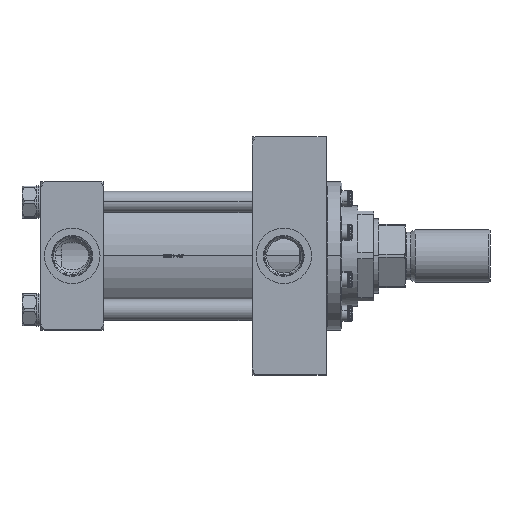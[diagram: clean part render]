
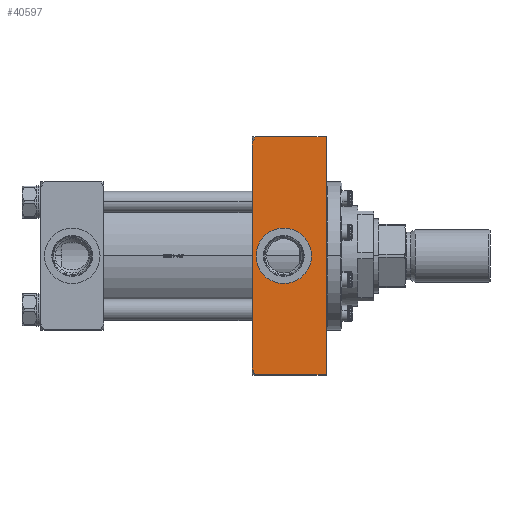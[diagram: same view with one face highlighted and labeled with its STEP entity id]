
A CAD part, top view. The second image highlights one B-rep face of the part: STEP entity #40597.
In plain terms, the highlighted planar face has unit normal (0, 0, 1).
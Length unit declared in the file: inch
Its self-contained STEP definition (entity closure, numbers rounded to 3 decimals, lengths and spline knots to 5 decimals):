
#213 = VECTOR ( 'NONE', #40701, 39.37008 ) ;
#823 = DIRECTION ( 'NONE',  ( 0., 0., -1. ) ) ;
#3746 = FACE_BOUND ( 'NONE', #79540, .T. ) ;
#4019 = VERTEX_POINT ( 'NONE', #34451 ) ;
#6539 = CARTESIAN_POINT ( 'NONE',  ( -3.59096, -2.73492, 1.75 ) ) ;
#10654 = ORIENTED_EDGE ( 'NONE', *, *, #73519, .F. ) ;
#12357 = CARTESIAN_POINT ( 'NONE',  ( -3.625, -2.6125, 1.75 ) ) ;
#13306 = ORIENTED_EDGE ( 'NONE', *, *, #28254, .F. ) ;
#13649 = CARTESIAN_POINT ( 'NONE',  ( -3.54216, 2.8125, 1.75 ) ) ;
#14068 = EDGE_CURVE ( 'NONE', #40652, #73163, #25184, .T. ) ;
#14241 = CARTESIAN_POINT ( 'NONE',  ( -3.61542, -2.67573, 1.75 ) ) ;
#14899 = ORIENTED_EDGE ( 'NONE', *, *, #23451, .T. ) ;
#17538 = CARTESIAN_POINT ( 'NONE',  ( -2.875, 0., 1.75 ) ) ;
#18186 = ORIENTED_EDGE ( 'NONE', *, *, #92084, .T. ) ;
#18969 = VERTEX_POINT ( 'NONE', #65826 ) ;
#19504 = EDGE_CURVE ( 'NONE', #24003, #4019, #84801, .T. ) ;
#21333 = CARTESIAN_POINT ( 'NONE',  ( -3.625, 2.63099, 1.75 ) ) ;
#23039 = ORIENTED_EDGE ( 'NONE', *, *, #64149, .F. ) ;
#23438 = DIRECTION ( 'NONE',  ( 0., 1., 0. ) ) ;
#23451 = EDGE_CURVE ( 'NONE', #4019, #76276, #69226, .T. ) ;
#24003 = VERTEX_POINT ( 'NONE', #90600 ) ;
#25184 = B_SPLINE_CURVE_WITH_KNOTS ( 'NONE', 3,
 ( #66449, #21333, #73618, #80816, #78960, #79903, #80360, #58303, #65978, #94724 ),
 .UNSPECIFIED., .F., .F.,
 ( 4, 2, 2, 2, 4 ),
 ( 0.00308, 0.00446, 0.00584, 0.00722, 0.0086 ),
 .UNSPECIFIED. ) ;
#25407 = DIRECTION ( 'NONE',  ( 1., 0., 0. ) ) ;
#25580 = DIRECTION ( 'NONE',  ( 0., 1., 0. ) ) ;
#28254 = EDGE_CURVE ( 'NONE', #18969, #40652, #92659, .T. ) ;
#30944 = VECTOR ( 'NONE', #25407, 39.37008 ) ;
#32474 = ORIENTED_EDGE ( 'NONE', *, *, #91296, .T. ) ;
#32504 = CARTESIAN_POINT ( 'NONE',  ( -3.625, -2.8125, 1.75 ) ) ;
#32770 = CARTESIAN_POINT ( 'NONE',  ( -1.875, -2.8125, 1.75 ) ) ;
#33222 = CIRCLE ( 'NONE', #79203, 0.65625 ) ;
#34451 = CARTESIAN_POINT ( 'NONE',  ( -1.875, -2.8125, 1.75 ) ) ;
#34820 = B_SPLINE_CURVE_WITH_KNOTS ( 'NONE', 3,
 ( #92964, #57977, #93434, #80024, #6539, #43168, #57010, #87212, #14241, #43635, #72803, #12357 ),
 .UNSPECIFIED., .F., .F.,
 ( 4, 2, 2, 2, 2, 4 ),
 ( 0.00627, 0.00766, 0.00905, 0.00975, 0.01044, 0.01184 ),
 .UNSPECIFIED. ) ;
#35013 = VERTEX_POINT ( 'NONE', #55366 ) ;
#40597 = ADVANCED_FACE ( 'NONE', ( #55155, #3746 ), #70959, .F. ) ;
#40652 = VERTEX_POINT ( 'NONE', #72376 ) ;
#40701 = DIRECTION ( 'NONE',  ( 1., 0., 0. ) ) ;
#40926 = DIRECTION ( 'NONE',  ( 0., 1., 0. ) ) ;
#41630 = AXIS2_PLACEMENT_3D ( 'NONE', #94419, #88174, #64282 ) ;
#43168 = CARTESIAN_POINT ( 'NONE',  ( -3.60257, -2.7101, 1.75 ) ) ;
#43635 = CARTESIAN_POINT ( 'NONE',  ( -3.62243, -2.64896, 1.75 ) ) ;
#47664 = CARTESIAN_POINT ( 'NONE',  ( -3.625, -2.8125, 1.75 ) ) ;
#48093 = ORIENTED_EDGE ( 'NONE', *, *, #14068, .F. ) ;
#51648 = DIRECTION ( 'NONE',  ( 0., 1., 0. ) ) ;
#52113 = VERTEX_POINT ( 'NONE', #88787 ) ;
#55155 = FACE_OUTER_BOUND ( 'NONE', #84162, .T. ) ;
#55366 = CARTESIAN_POINT ( 'NONE',  ( -2.875, 0.65625, 1.75 ) ) ;
#57010 = CARTESIAN_POINT ( 'NONE',  ( -3.60616, -2.7017, 1.75 ) ) ;
#57977 = CARTESIAN_POINT ( 'NONE',  ( -3.55272, -2.79756, 1.75 ) ) ;
#58303 = CARTESIAN_POINT ( 'NONE',  ( -3.56273, 2.78261, 1.75 ) ) ;
#64149 = EDGE_CURVE ( 'NONE', #73163, #76276, #83960, .T. ) ;
#64282 = DIRECTION ( 'NONE',  ( 0., 1., 0. ) ) ;
#65826 = CARTESIAN_POINT ( 'NONE',  ( -3.625, -2.6125, 1.75 ) ) ;
#65978 = CARTESIAN_POINT ( 'NONE',  ( -3.55263, 2.79769, 1.75 ) ) ;
#66449 = CARTESIAN_POINT ( 'NONE',  ( -3.625, 2.6125, 1.75 ) ) ;
#67030 = VECTOR ( 'NONE', #40926, 39.37008 ) ;
#69226 = LINE ( 'NONE', #32770, #77543 ) ;
#70959 = PLANE ( 'NONE',  #41630 ) ;
#72376 = CARTESIAN_POINT ( 'NONE',  ( -3.625, 2.6125, 1.75 ) ) ;
#72803 = CARTESIAN_POINT ( 'NONE',  ( -3.625, -2.63088, 1.75 ) ) ;
#73163 = VERTEX_POINT ( 'NONE', #13649 ) ;
#73519 = EDGE_CURVE ( 'NONE', #24003, #18969, #34820, .T. ) ;
#73618 = CARTESIAN_POINT ( 'NONE',  ( -3.62232, 2.64953, 1.75 ) ) ;
#76276 = VERTEX_POINT ( 'NONE', #79338 ) ;
#77543 = VECTOR ( 'NONE', #25580, 39.37008 ) ;
#78960 = CARTESIAN_POINT ( 'NONE',  ( -3.60635, 2.7021, 1.75 ) ) ;
#79203 = AXIS2_PLACEMENT_3D ( 'NONE', #94776, #81323, #51648 ) ;
#79338 = CARTESIAN_POINT ( 'NONE',  ( -1.875, 2.8125, 1.75 ) ) ;
#79540 = EDGE_LOOP ( 'NONE', ( #18186, #32474 ) ) ;
#79903 = CARTESIAN_POINT ( 'NONE',  ( -3.59065, 2.73554, 1.75 ) ) ;
#80024 = CARTESIAN_POINT ( 'NONE',  ( -3.58208, -2.75094, 1.75 ) ) ;
#80360 = CARTESIAN_POINT ( 'NONE',  ( -3.58173, 2.75154, 1.75 ) ) ;
#80816 = CARTESIAN_POINT ( 'NONE',  ( -3.61296, 2.68498, 1.75 ) ) ;
#81323 = DIRECTION ( 'NONE',  ( 0., 0., -1. ) ) ;
#83960 = LINE ( 'NONE', #92062, #30944 ) ;
#84162 = EDGE_LOOP ( 'NONE', ( #10654, #94087, #14899, #23039, #48093, #13306 ) ) ;
#84801 = LINE ( 'NONE', #32504, #213 ) ;
#86713 = CIRCLE ( 'NONE', #91280, 0.65625 ) ;
#87212 = CARTESIAN_POINT ( 'NONE',  ( -3.61257, -2.68453, 1.75 ) ) ;
#88174 = DIRECTION ( 'NONE',  ( 0., 0., -1. ) ) ;
#88787 = CARTESIAN_POINT ( 'NONE',  ( -2.875, -0.65625, 1.75 ) ) ;
#90600 = CARTESIAN_POINT ( 'NONE',  ( -3.54216, -2.8125, 1.75 ) ) ;
#91280 = AXIS2_PLACEMENT_3D ( 'NONE', #17538, #823, #23438 ) ;
#91296 = EDGE_CURVE ( 'NONE', #52113, #35013, #86713, .T. ) ;
#92062 = CARTESIAN_POINT ( 'NONE',  ( -3.625, 2.8125, 1.75 ) ) ;
#92084 = EDGE_CURVE ( 'NONE', #35013, #52113, #33222, .T. ) ;
#92659 = LINE ( 'NONE', #47664, #67030 ) ;
#92964 = CARTESIAN_POINT ( 'NONE',  ( -3.54216, -2.8125, 1.75 ) ) ;
#93434 = CARTESIAN_POINT ( 'NONE',  ( -3.56292, -2.78233, 1.75 ) ) ;
#94087 = ORIENTED_EDGE ( 'NONE', *, *, #19504, .T. ) ;
#94419 = CARTESIAN_POINT ( 'NONE',  ( -3.625, -2.8125, 1.75 ) ) ;
#94724 = CARTESIAN_POINT ( 'NONE',  ( -3.54216, 2.8125, 1.75 ) ) ;
#94776 = CARTESIAN_POINT ( 'NONE',  ( -2.875, 0., 1.75 ) ) ;
